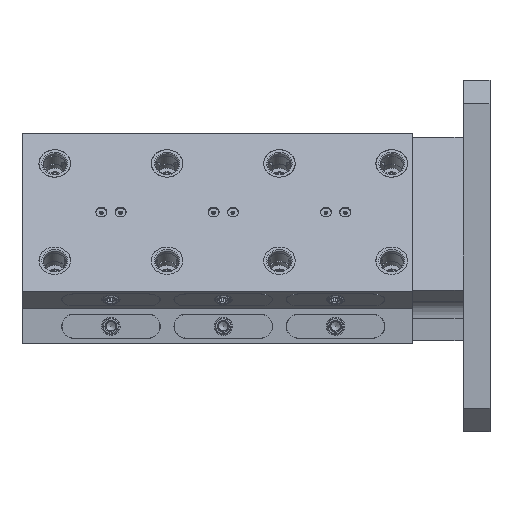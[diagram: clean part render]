
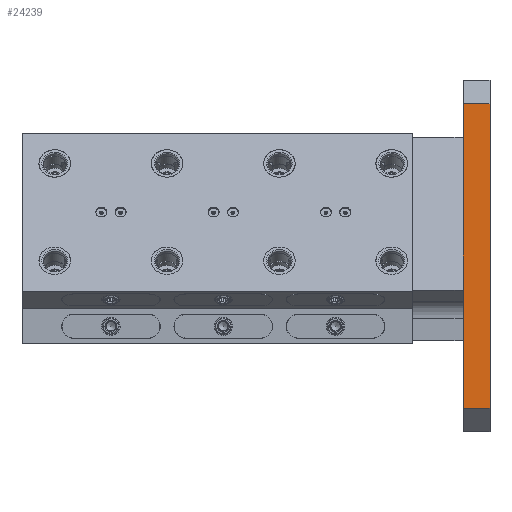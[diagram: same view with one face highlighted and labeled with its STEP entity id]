
A CAD part, left-side view. The second image highlights one B-rep face of the part: STEP entity #24239.
In plain terms, the highlighted planar face has unit normal (-1, 0, 0).
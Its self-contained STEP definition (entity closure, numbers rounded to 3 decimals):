
#451 = CARTESIAN_POINT ( 'NONE',  ( -150., 23., 150. ) ) ;
#594 = LINE ( 'NONE', #451, #20325 ) ;
#1197 = CARTESIAN_POINT ( 'NONE',  ( -150., 23., -130. ) ) ;
#1504 = VERTEX_POINT ( 'NONE', #13786 ) ;
#1633 = CARTESIAN_POINT ( 'NONE',  ( -150., 23., -130. ) ) ;
#2076 = VECTOR ( 'NONE', #7598, 1000. ) ;
#4465 = DIRECTION ( 'NONE',  ( 1., 0., 0. ) ) ;
#6407 = EDGE_CURVE ( 'NONE', #21832, #25113, #14598, .T. ) ;
#7137 = VERTEX_POINT ( 'NONE', #1633 ) ;
#7598 = DIRECTION ( 'NONE',  ( 0., 0., 1. ) ) ;
#8579 = CARTESIAN_POINT ( 'NONE',  ( -150., 23., 150. ) ) ;
#8637 = VECTOR ( 'NONE', #23178, 1000. ) ;
#8862 = DIRECTION ( 'NONE',  ( 0., 0., -1. ) ) ;
#9186 = CARTESIAN_POINT ( 'NONE',  ( -150., 0., 130. ) ) ;
#10830 = EDGE_CURVE ( 'NONE', #7137, #1504, #24609, .T. ) ;
#11421 = ORIENTED_EDGE ( 'NONE', *, *, #6407, .T. ) ;
#13786 = CARTESIAN_POINT ( 'NONE',  ( -150., 0., -130. ) ) ;
#14009 = VECTOR ( 'NONE', #14212, 1000. ) ;
#14212 = DIRECTION ( 'NONE',  ( 0., -1., 0. ) ) ;
#14215 = EDGE_CURVE ( 'NONE', #7137, #25113, #594, .T. ) ;
#14598 = LINE ( 'NONE', #18923, #8637 ) ;
#14891 = ORIENTED_EDGE ( 'NONE', *, *, #14215, .F. ) ;
#15355 = FACE_OUTER_BOUND ( 'NONE', #26403, .T. ) ;
#18923 = CARTESIAN_POINT ( 'NONE',  ( -150., 23., 130. ) ) ;
#20325 = VECTOR ( 'NONE', #21767, 1000. ) ;
#21767 = DIRECTION ( 'NONE',  ( 0., 0., 1. ) ) ;
#21832 = VERTEX_POINT ( 'NONE', #9186 ) ;
#22074 = PLANE ( 'NONE',  #24472 ) ;
#23178 = DIRECTION ( 'NONE',  ( 0., 1., 0. ) ) ;
#24239 = ADVANCED_FACE ( 'NONE', ( #15355 ), #22074, .F. ) ;
#24278 = ORIENTED_EDGE ( 'NONE', *, *, #26410, .T. ) ;
#24351 = CARTESIAN_POINT ( 'NONE',  ( -150., 0., 150. ) ) ;
#24472 = AXIS2_PLACEMENT_3D ( 'NONE', #8579, #4465, #8862 ) ;
#24609 = LINE ( 'NONE', #1197, #14009 ) ;
#25086 = CARTESIAN_POINT ( 'NONE',  ( -150., 23., 130. ) ) ;
#25113 = VERTEX_POINT ( 'NONE', #25086 ) ;
#26403 = EDGE_LOOP ( 'NONE', ( #14891, #27369, #24278, #11421 ) ) ;
#26410 = EDGE_CURVE ( 'NONE', #1504, #21832, #26606, .T. ) ;
#26606 = LINE ( 'NONE', #24351, #2076 ) ;
#27369 = ORIENTED_EDGE ( 'NONE', *, *, #10830, .T. ) ;
